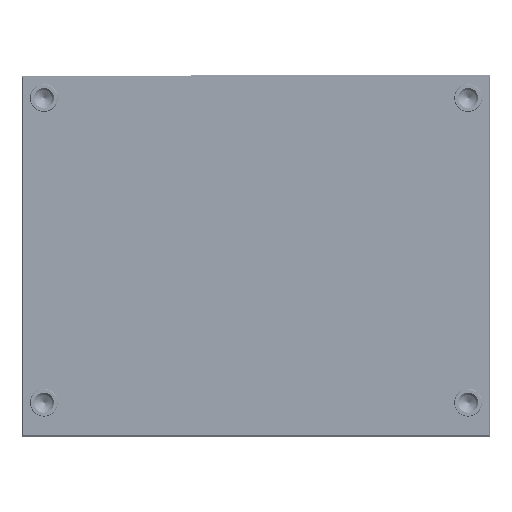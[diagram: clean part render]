
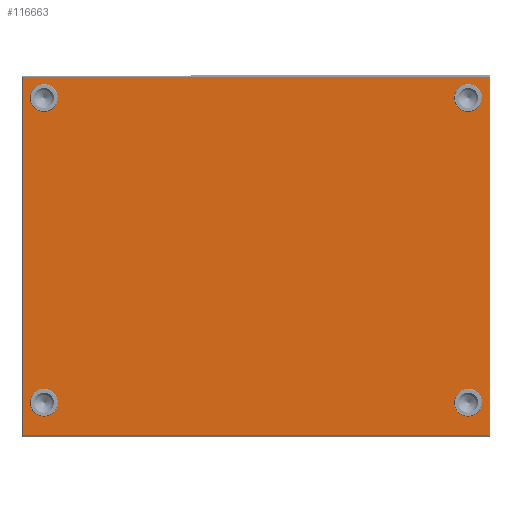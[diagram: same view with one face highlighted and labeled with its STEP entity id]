
A CAD part, front view. The second image highlights one B-rep face of the part: STEP entity #116663.
In plain terms, the highlighted planar face has unit normal (0, -1, 0).
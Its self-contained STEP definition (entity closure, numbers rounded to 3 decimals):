
#1150 = ORIENTED_EDGE ( 'NONE', *, *, #413883, .T. ) ;
#2629 = PLANE ( 'NONE',  #151838 ) ;
#3982 = FACE_OUTER_BOUND ( 'NONE', #152138, .T. ) ;
#17260 = VECTOR ( 'NONE', #293231, 1000. ) ;
#18847 = CARTESIAN_POINT ( 'NONE',  ( -23.5, 0., 17.957 ) ) ;
#22895 = CARTESIAN_POINT ( 'NONE',  ( 23.357, 0., -17.957 ) ) ;
#25127 = DIRECTION ( 'NONE',  ( 0., 0., 1. ) ) ;
#41413 = ORIENTED_EDGE ( 'NONE', *, *, #349441, .T. ) ;
#49449 = CARTESIAN_POINT ( 'NONE',  ( 23.357, 0., -18.1 ) ) ;
#68999 = CARTESIAN_POINT ( 'NONE',  ( -21.3, 0., -13.3 ) ) ;
#75561 = VECTOR ( 'NONE', #303523, 1000. ) ;
#78474 = EDGE_LOOP ( 'NONE', ( #1150 ) ) ;
#81537 = VERTEX_POINT ( 'NONE', #216906 ) ;
#84404 = DIRECTION ( 'NONE',  ( 0., 0., 1. ) ) ;
#85777 = AXIS2_PLACEMENT_3D ( 'NONE', #348028, #104146, #389101 ) ;
#98877 = VERTEX_POINT ( 'NONE', #391793 ) ;
#100487 = VECTOR ( 'NONE', #150809, 1000. ) ;
#102996 = ORIENTED_EDGE ( 'NONE', *, *, #110208, .T. ) ;
#104146 = DIRECTION ( 'NONE',  ( 0., 1., 0. ) ) ;
#106554 = CIRCLE ( 'NONE', #85777, 1.4 ) ;
#110208 = EDGE_CURVE ( 'NONE', #329078, #258733, #450689, .T. ) ;
#112123 = FACE_BOUND ( 'NONE', #293768, .T. ) ;
#116663 = ADVANCED_FACE ( 'NONE', ( #112123, #207674, #220357, #315944, #3982 ), #2629, .F. ) ;
#117793 = CARTESIAN_POINT ( 'NONE',  ( 23.357, 0., 17.957 ) ) ;
#137242 = DIRECTION ( 'NONE',  ( 1., 0., 0. ) ) ;
#150809 = DIRECTION ( 'NONE',  ( 0., 0., 1. ) ) ;
#151838 = AXIS2_PLACEMENT_3D ( 'NONE', #205451, #449649, #84404 ) ;
#152093 = AXIS2_PLACEMENT_3D ( 'NONE', #513047, #268838, #25127 ) ;
#152138 = EDGE_LOOP ( 'NONE', ( #102996, #283883, #447972, #41413 ) ) ;
#173593 = CARTESIAN_POINT ( 'NONE',  ( 21.3, 0., 15.9 ) ) ;
#174434 = LINE ( 'NONE', #217315, #378404 ) ;
#205451 = CARTESIAN_POINT ( 'NONE',  ( -23.5, 0., 18.1 ) ) ;
#207674 = FACE_BOUND ( 'NONE', #286571, .T. ) ;
#214523 = DIRECTION ( 'NONE',  ( 0., 0., 1. ) ) ;
#216906 = CARTESIAN_POINT ( 'NONE',  ( 21.3, 0., 17.3 ) ) ;
#217315 = CARTESIAN_POINT ( 'NONE',  ( -23.5, 0., -17.957 ) ) ;
#217326 = DIRECTION ( 'NONE',  ( 0., 1., 0. ) ) ;
#220357 = FACE_BOUND ( 'NONE', #78474, .T. ) ;
#229876 = CARTESIAN_POINT ( 'NONE',  ( -23.357, 0., -17.957 ) ) ;
#236828 = VERTEX_POINT ( 'NONE', #302811 ) ;
#258733 = VERTEX_POINT ( 'NONE', #117793 ) ;
#260797 = EDGE_CURVE ( 'NONE', #98877, #98877, #262494, .T. ) ;
#262494 = CIRCLE ( 'NONE', #436760, 1.4 ) ;
#268838 = DIRECTION ( 'NONE',  ( 0., 1., 0. ) ) ;
#283883 = ORIENTED_EDGE ( 'NONE', *, *, #434054, .F. ) ;
#286571 = EDGE_LOOP ( 'NONE', ( #456949 ) ) ;
#289484 = CIRCLE ( 'NONE', #318190, 1.4 ) ;
#293231 = DIRECTION ( 'NONE',  ( 0., 0., 1. ) ) ;
#293768 = EDGE_LOOP ( 'NONE', ( #341015 ) ) ;
#302811 = CARTESIAN_POINT ( 'NONE',  ( -23.357, 0., 17.957 ) ) ;
#303523 = DIRECTION ( 'NONE',  ( 1., 0., 0. ) ) ;
#315944 = FACE_BOUND ( 'NONE', #432222, .T. ) ;
#318190 = AXIS2_PLACEMENT_3D ( 'NONE', #173593, #458716, #214523 ) ;
#329078 = VERTEX_POINT ( 'NONE', #22895 ) ;
#341015 = ORIENTED_EDGE ( 'NONE', *, *, #260797, .T. ) ;
#344888 = EDGE_CURVE ( 'NONE', #516663, #236828, #425648, .T. ) ;
#348028 = CARTESIAN_POINT ( 'NONE',  ( 21.3, 0., -14.7 ) ) ;
#349441 = EDGE_CURVE ( 'NONE', #516663, #329078, #174434, .T. ) ;
#350265 = EDGE_CURVE ( 'NONE', #81537, #81537, #289484, .T. ) ;
#353743 = CARTESIAN_POINT ( 'NONE',  ( -23.357, 0., -18.1 ) ) ;
#378404 = VECTOR ( 'NONE', #137242, 1000. ) ;
#386530 = VERTEX_POINT ( 'NONE', #478642 ) ;
#389101 = DIRECTION ( 'NONE',  ( 0., 0., 1. ) ) ;
#391793 = CARTESIAN_POINT ( 'NONE',  ( -21.3, 0., 17.3 ) ) ;
#405536 = EDGE_CURVE ( 'NONE', #437768, #437768, #468811, .T. ) ;
#413883 = EDGE_CURVE ( 'NONE', #386530, #386530, #106554, .T. ) ;
#425648 = LINE ( 'NONE', #353743, #100487 ) ;
#432222 = EDGE_LOOP ( 'NONE', ( #469655 ) ) ;
#434054 = EDGE_CURVE ( 'NONE', #236828, #258733, #496191, .T. ) ;
#436760 = AXIS2_PLACEMENT_3D ( 'NONE', #461548, #217326, #502414 ) ;
#437768 = VERTEX_POINT ( 'NONE', #68999 ) ;
#447972 = ORIENTED_EDGE ( 'NONE', *, *, #344888, .F. ) ;
#449649 = DIRECTION ( 'NONE',  ( 0., 1., 0. ) ) ;
#450689 = LINE ( 'NONE', #49449, #17260 ) ;
#456949 = ORIENTED_EDGE ( 'NONE', *, *, #405536, .T. ) ;
#458716 = DIRECTION ( 'NONE',  ( 0., 1., 0. ) ) ;
#461548 = CARTESIAN_POINT ( 'NONE',  ( -21.3, 0., 15.9 ) ) ;
#468811 = CIRCLE ( 'NONE', #152093, 1.4 ) ;
#469655 = ORIENTED_EDGE ( 'NONE', *, *, #350265, .T. ) ;
#478642 = CARTESIAN_POINT ( 'NONE',  ( 21.3, 0., -13.3 ) ) ;
#496191 = LINE ( 'NONE', #18847, #75561 ) ;
#502414 = DIRECTION ( 'NONE',  ( 0., 0., 1. ) ) ;
#513047 = CARTESIAN_POINT ( 'NONE',  ( -21.3, 0., -14.7 ) ) ;
#516663 = VERTEX_POINT ( 'NONE', #229876 ) ;
